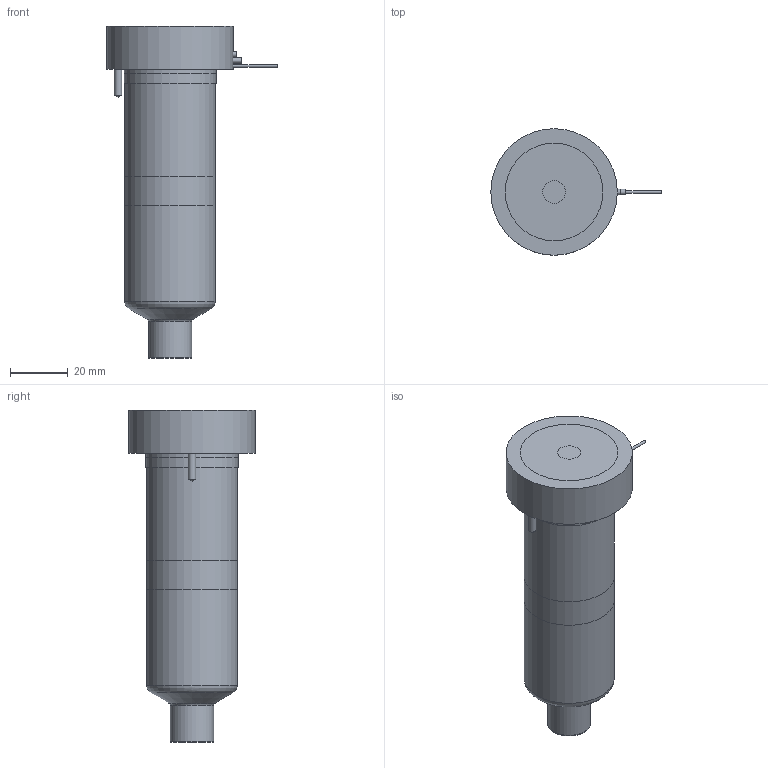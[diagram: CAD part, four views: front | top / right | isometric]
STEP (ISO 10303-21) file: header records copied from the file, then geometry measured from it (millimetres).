
FILE_DESCRIPTION(/* description */ (''),/* implementation_level */ '2;1');
FILE_NAME(/* name */ 'MXTSN-MXISN-MXOSN19095_200C_b',/* time_stamp */ '2007-01-18T09:51:23+13:00',/* author */ (''),/* organization */ (''),/* preprocessor_version */ 'ST-DEVELOPER v9',/* originating_system */ 'UGS - NX 4.0',/* authorisation */ '');
FILE_SCHEMA (('CONFIG_CONTROL_DESIGN'));
Length unit declared in the file: millimetre
Products named in the file (1): MXTSN-MXISN-MXOSN19095_200C_b
Bounding box: 59.25 x 44 x 115.46 mm (x, y, z)
Volume: 161840.5 mm3; surface area: 29297 mm2
Topology: 7 solids, 7 shells, 78 faces, 147 edges, 95 vertices
Faces by surface type: plane 35, cylinder 27, cone 8, torus 7, bspline 1
Full cylindrical faces by diameter (mm): 1 x3, 1.2 x1, 2 x2, 2.5 x2, 8 x1, 14.61 x1, 15.01 x2, 18.3 x1, 25.4 x1, 31.5 x2, 32 x2, 44 x1
Entity records: 1886 total; most frequent: CARTESIAN_POINT 376, DIRECTION 322, ORIENTED_EDGE 212, AXIS2_PLACEMENT_3D 148, EDGE_LOOP 122, EDGE_CURVE 106, VERTEX_POINT 87, ADVANCED_FACE 78
